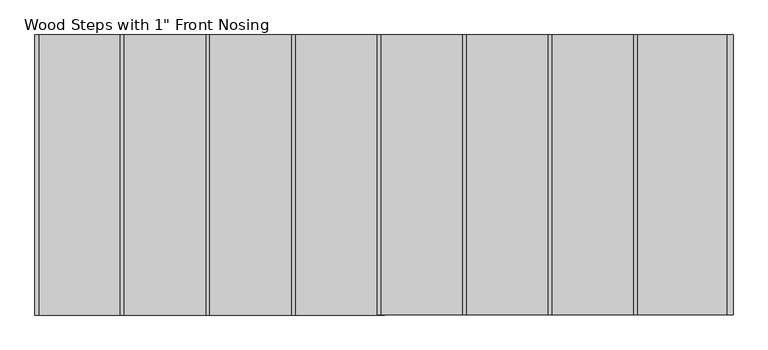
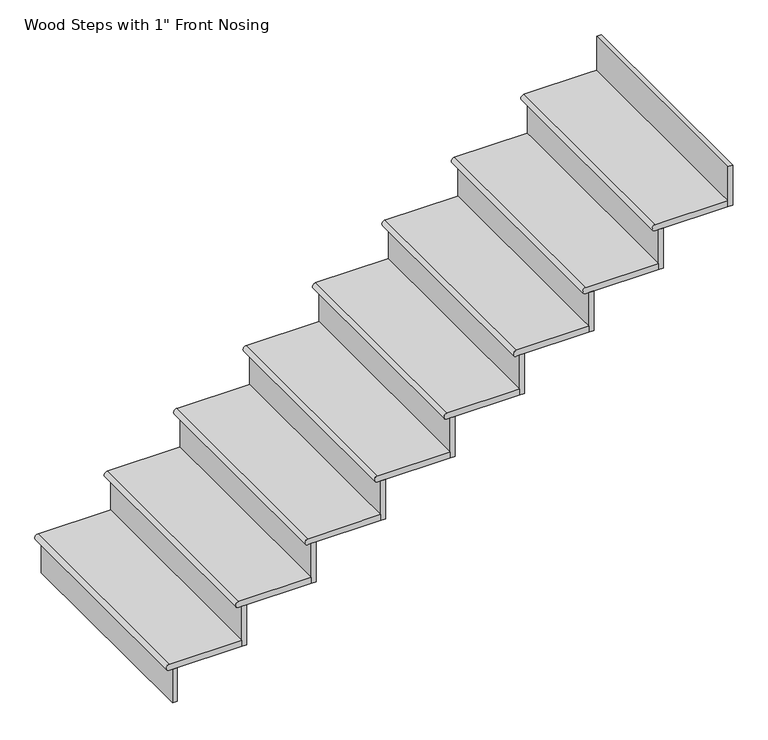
"""IFC4 building model written with IfcOpenShell, lengths in millimetres: stair flight geometry."""

from ifc_helpers import new_model, si_unit, frame, origin, place, context, project, spatial, circle_curve, faceted_brep, source, transform, mapped, element, save
from ifc_brep_helpers import plane_surface, cylinder_surface, advanced_brep


def stair_flight_6cd47184(model_context):
    return source(origin(), model_context, "Body", "SolidModel", [
        advanced_brep(
        [(53728.8203872, 1825.9591714, 143.9333333), (53728.8203872, 1825.9591714, 169.3333333), (53728.8203872, 2740.3591714, 169.3333333), (53728.8203872, 2740.3591714, 143.9333333), (54020.9203872, 2740.3591714, 169.3333333), (54020.9203872, 1825.9591714, 169.3333333), (54020.9203872, 2740.3591714, 143.9333333), (54020.9203872, 1825.9591714, 143.9333333)],
        [
            (0, 1, circle_curve(frame((53728.8203872, 1825.9591714, 156.6333333), z_axis=(0.0, 1.0, 0.0), x_axis=(1.0, 0.0, 0.0)), 12.7)),
            (1, 2),
            (2, 3, circle_curve(frame((53728.8203872, 2740.3591714, 156.6333333), z_axis=(0.0, -1.0, 0.0), x_axis=(1.0, 0.0, 0.0)), 12.7)),
            (3, 0),
            (4, 2),
            (1, 5),
            (5, 4),
            (3, 6),
            (6, 7),
            (7, 0),
            (4, 6),
            (7, 5),
        ],
        [
            cylinder_surface(frame((53728.8203872, 1825.9591714, 156.6333333), z_axis=(0.0, -1.0, 0.0), x_axis=(1.0, 0.0, 0.0)), 12.7),
            plane_surface(frame((53716.1203872, 2740.3591714, 169.3333333), z_axis=(0.0, 0.0, 1.0), x_axis=(-1.0, 0.0, 0.0))),
            plane_surface(frame((53716.1203872, 2740.3591714, 143.9333333), z_axis=(0.0, 0.0, -1.0), x_axis=(1.0, 0.0, 0.0))),
            plane_surface(frame((54020.9203872, 2740.3591714, 169.3333333), z_axis=(0.0, 1.0, 0.0), x_axis=(0.0, 0.0, -1.0))),
            plane_surface(frame((53728.8203872, 1825.9591714, 169.3333333), z_axis=(0.0, -1.0, 0.0), x_axis=(0.0, 0.0, -1.0))),
            plane_surface(frame((54020.9203872, 1825.9591714, 169.3333333), z_axis=(1.0, 0.0, 0.0), x_axis=(0.0, 0.0, -1.0))),
        ],
        [
            (0, [[1, 2, 3, 4]]),
            (1, [[5, -2, 6, 7]]),
            (2, [[8, 9, 10, -4]]),
            (3, [[-5, 11, -8, -3]]),
            (4, [[-6, -1, -10, 12]]),
            (5, [[-7, -12, -9, -11]]),
        ],
    ),
        faceted_brep([(53741.5203872, 1825.9591714, 143.9333333), (53741.5203872, 1825.9591714, 0.0), (53760.5703872, 1825.9591714, 0.0), (53760.5703872, 1825.9591714, 143.9333333), (53741.5203872, 2740.3591714, 143.9333333), (53760.5703872, 2740.3591714, 143.9333333), (53760.5703872, 2740.3591714, 0.0), (53741.5203872, 2740.3591714, 0.0)], [[[0, 1, 2, 3]], [[4, 5, 6, 7]], [[1, 0, 4, 7]], [[2, 1, 7, 6]], [[3, 2, 6, 5]], [[0, 3, 5, 4]]]),
        faceted_brep([(54020.9203872, 1825.9591714, 313.2666667), (54020.9203872, 1825.9591714, 143.9333333), (54039.9703872, 1825.9591714, 143.9333333), (54039.9703872, 1825.9591714, 313.2666667), (54020.9203872, 2740.3591714, 313.2666667), (54039.9703872, 2740.3591714, 313.2666667), (54039.9703872, 2740.3591714, 143.9333333), (54020.9203872, 2740.3591714, 143.9333333)], [[[0, 1, 2, 3]], [[4, 5, 6, 7]], [[1, 0, 4, 7]], [[2, 1, 7, 6]], [[3, 2, 6, 5]], [[0, 3, 5, 4]]]),
        advanced_brep(
        [(54300.3203872, 2740.3591714, 338.6666667), (54008.2203872, 2740.3591714, 338.6666667), (54008.2203872, 1825.9591714, 338.6666667), (54300.3203872, 1825.9591714, 338.6666667), (54008.2203872, 2740.3591714, 313.2666667), (54300.3203872, 2740.3591714, 313.2666667), (54300.3203872, 1825.9591714, 313.2666667), (54008.2203872, 1825.9591714, 313.2666667)],
        [
            (0, 1),
            (1, 2),
            (2, 3),
            (3, 0),
            (4, 5),
            (5, 6),
            (6, 7),
            (7, 4),
            (0, 5),
            (4, 1, circle_curve(frame((54008.2203872, 2740.3591714, 325.9666667), z_axis=(0.0, 1.0, 0.0), x_axis=(1.0, 0.0, 0.0)), 12.7)),
            (2, 7, circle_curve(frame((54008.2203872, 1825.9591714, 325.9666667), z_axis=(0.0, -1.0, 0.0), x_axis=(1.0, 0.0, 0.0)), 12.7)),
            (6, 3),
        ],
        [
            plane_surface(frame((53716.1203872, 2740.3591714, 338.6666667), z_axis=(0.0, 0.0, 1.0), x_axis=(-1.0, 0.0, 0.0))),
            plane_surface(frame((53716.1203872, 2740.3591714, 313.2666667), z_axis=(0.0, 0.0, -1.0), x_axis=(1.0, 0.0, 0.0))),
            plane_surface(frame((54300.3203872, 2740.3591714, 338.6666667), z_axis=(0.0, 1.0, 0.0), x_axis=(0.0, 0.0, -1.0))),
            plane_surface(frame((54008.2203872, 1825.9591714, 338.6666667), z_axis=(0.0, -1.0, 0.0), x_axis=(0.0, 0.0, -1.0))),
            plane_surface(frame((54300.3203872, 1825.9591714, 338.6666667), z_axis=(1.0, 0.0, 0.0), x_axis=(0.0, 0.0, -1.0))),
            cylinder_surface(frame((54008.2203872, 1825.9591714, 325.9666667), z_axis=(0.0, -1.0, 0.0), x_axis=(1.0, 0.0, 0.0)), 12.7),
        ],
        [
            (0, [[1, 2, 3, 4]]),
            (1, [[5, 6, 7, 8]]),
            (2, [[-1, 9, -5, 10]]),
            (3, [[-3, 11, -7, 12]]),
            (4, [[-4, -12, -6, -9]]),
            (5, [[-11, -2, -10, -8]]),
        ],
    ),
        faceted_brep([(54300.3203872, 1825.9591714, 482.6), (54300.3203872, 1825.9591714, 313.2666667), (54319.3703872, 1825.9591714, 313.2666667), (54319.3703872, 1825.9591714, 482.6), (54300.3203872, 2740.3591714, 482.6), (54319.3703872, 2740.3591714, 482.6), (54319.3703872, 2740.3591714, 313.2666667), (54300.3203872, 2740.3591714, 313.2666667)], [[[0, 1, 2, 3]], [[4, 5, 6, 7]], [[1, 0, 4, 7]], [[2, 1, 7, 6]], [[3, 2, 6, 5]], [[0, 3, 5, 4]]]),
        advanced_brep(
        [(54579.7203872, 2740.3591714, 508.0), (54287.6203872, 2740.3591714, 508.0), (54287.6203872, 1825.9591714, 508.0), (54579.7203872, 1825.9591714, 508.0), (54287.6203872, 2740.3591714, 482.6), (54579.7203872, 2740.3591714, 482.6), (54579.7203872, 1825.9591714, 482.6), (54287.6203872, 1825.9591714, 482.6)],
        [
            (0, 1),
            (1, 2),
            (2, 3),
            (3, 0),
            (4, 5),
            (5, 6),
            (6, 7),
            (7, 4),
            (0, 5),
            (4, 1, circle_curve(frame((54287.6203872, 2740.3591714, 495.3), z_axis=(0.0, 1.0, 0.0), x_axis=(1.0, 0.0, 0.0)), 12.7)),
            (2, 7, circle_curve(frame((54287.6203872, 1825.9591714, 495.3), z_axis=(0.0, -1.0, 0.0), x_axis=(1.0, 0.0, 0.0)), 12.7)),
            (6, 3),
        ],
        [
            plane_surface(frame((53995.5203872, 2740.3591714, 508.0), z_axis=(0.0, 0.0, 1.0), x_axis=(-1.0, 0.0, 0.0))),
            plane_surface(frame((53995.5203872, 2740.3591714, 482.6), z_axis=(0.0, 0.0, -1.0), x_axis=(1.0, 0.0, 0.0))),
            plane_surface(frame((54579.7203872, 2740.3591714, 508.0), z_axis=(0.0, 1.0, 0.0), x_axis=(0.0, 0.0, -1.0))),
            plane_surface(frame((54287.6203872, 1825.9591714, 508.0), z_axis=(0.0, -1.0, 0.0), x_axis=(0.0, 0.0, -1.0))),
            plane_surface(frame((54579.7203872, 1825.9591714, 508.0), z_axis=(1.0, 0.0, 0.0), x_axis=(0.0, 0.0, -1.0))),
            cylinder_surface(frame((54287.6203872, 1825.9591714, 495.3), z_axis=(0.0, -1.0, 0.0), x_axis=(1.0, 0.0, 0.0)), 12.7),
        ],
        [
            (0, [[1, 2, 3, 4]]),
            (1, [[5, 6, 7, 8]]),
            (2, [[-1, 9, -5, 10]]),
            (3, [[-3, 11, -7, 12]]),
            (4, [[-4, -12, -6, -9]]),
            (5, [[-11, -2, -10, -8]]),
        ],
    ),
        faceted_brep([(54579.7203872, 1825.9591714, 651.9333333), (54579.7203872, 1825.9591714, 482.6), (54598.7703872, 1825.9591714, 482.6), (54598.7703872, 1825.9591714, 651.9333333), (54579.7203872, 2740.3591714, 651.9333333), (54598.7703872, 2740.3591714, 651.9333333), (54598.7703872, 2740.3591714, 482.6), (54579.7203872, 2740.3591714, 482.6)], [[[0, 1, 2, 3]], [[4, 5, 6, 7]], [[1, 0, 4, 7]], [[2, 1, 7, 6]], [[3, 2, 6, 5]], [[0, 3, 5, 4]]]),
        advanced_brep(
        [(54859.1203872, 2740.3591714, 677.3333333), (54567.0203872, 2740.3591714, 677.3333333), (54567.0203872, 1825.9591714, 677.3333333), (54859.1203872, 1825.9591714, 677.3333333), (54567.0203872, 2740.3591714, 651.9333333), (54859.1203872, 2740.3591714, 651.9333333), (54859.1203872, 1825.9591714, 651.9333333), (54567.0203872, 1825.9591714, 651.9333333)],
        [
            (0, 1),
            (1, 2),
            (2, 3),
            (3, 0),
            (4, 5),
            (5, 6),
            (6, 7),
            (7, 4),
            (0, 5),
            (4, 1, circle_curve(frame((54567.0203872, 2740.3591714, 664.6333333), z_axis=(0.0, 1.0, 0.0), x_axis=(1.0, 0.0, 0.0)), 12.7)),
            (2, 7, circle_curve(frame((54567.0203872, 1825.9591714, 664.6333333), z_axis=(0.0, -1.0, 0.0), x_axis=(1.0, 0.0, 0.0)), 12.7)),
            (6, 3),
        ],
        [
            plane_surface(frame((54274.9203872, 2740.3591714, 677.3333333), z_axis=(0.0, 0.0, 1.0), x_axis=(-1.0, 0.0, 0.0))),
            plane_surface(frame((54274.9203872, 2740.3591714, 651.9333333), z_axis=(0.0, 0.0, -1.0), x_axis=(1.0, 0.0, 0.0))),
            plane_surface(frame((54859.1203872, 2740.3591714, 677.3333333), z_axis=(0.0, 1.0, 0.0), x_axis=(0.0, 0.0, -1.0))),
            plane_surface(frame((54567.0203872, 1825.9591714, 677.3333333), z_axis=(0.0, -1.0, 0.0), x_axis=(0.0, 0.0, -1.0))),
            plane_surface(frame((54859.1203872, 1825.9591714, 677.3333333), z_axis=(1.0, 0.0, 0.0), x_axis=(0.0, 0.0, -1.0))),
            cylinder_surface(frame((54567.0203872, 1825.9591714, 664.6333333), z_axis=(0.0, -1.0, 0.0), x_axis=(1.0, 0.0, 0.0)), 12.7),
        ],
        [
            (0, [[1, 2, 3, 4]]),
            (1, [[5, 6, 7, 8]]),
            (2, [[-1, 9, -5, 10]]),
            (3, [[-3, 11, -7, 12]]),
            (4, [[-4, -12, -6, -9]]),
            (5, [[-11, -2, -10, -8]]),
        ],
    ),
        faceted_brep([(54859.1203872, 1825.9591714, 821.2666667), (54859.1203872, 1825.9591714, 651.9333333), (54878.1703872, 1825.9591714, 651.9333333), (54878.1703872, 1825.9591714, 821.2666667), (54859.1203872, 2740.3591714, 821.2666667), (54878.1703872, 2740.3591714, 821.2666667), (54878.1703872, 2740.3591714, 651.9333333), (54859.1203872, 2740.3591714, 651.9333333)], [[[0, 1, 2, 3]], [[4, 5, 6, 7]], [[1, 0, 4, 7]], [[2, 1, 7, 6]], [[3, 2, 6, 5]], [[0, 3, 5, 4]]]),
        advanced_brep(
        [(55138.5203872, 2740.3591714, 846.6666667), (54846.4203872, 2740.3591714, 846.6666667), (54846.4203872, 1825.9591714, 846.6666667), (55138.5203872, 1825.9591714, 846.6666667), (54846.4203872, 2740.3591714, 821.2666667), (55138.5203872, 2740.3591714, 821.2666667), (55138.5203872, 1825.9591714, 821.2666667), (54846.4203872, 1825.9591714, 821.2666667)],
        [
            (0, 1),
            (1, 2),
            (2, 3),
            (3, 0),
            (4, 5),
            (5, 6),
            (6, 7),
            (7, 4),
            (0, 5),
            (4, 1, circle_curve(frame((54846.4203872, 2740.3591714, 833.9666667), z_axis=(0.0, 1.0, 0.0), x_axis=(1.0, 0.0, 0.0)), 12.7)),
            (2, 7, circle_curve(frame((54846.4203872, 1825.9591714, 833.9666667), z_axis=(0.0, -1.0, 0.0), x_axis=(1.0, 0.0, 0.0)), 12.7)),
            (6, 3),
        ],
        [
            plane_surface(frame((54554.3203872, 2740.3591714, 846.6666667), z_axis=(0.0, 0.0, 1.0), x_axis=(-1.0, 0.0, 0.0))),
            plane_surface(frame((54554.3203872, 2740.3591714, 821.2666667), z_axis=(0.0, 0.0, -1.0), x_axis=(1.0, 0.0, 0.0))),
            plane_surface(frame((55138.5203872, 2740.3591714, 846.6666667), z_axis=(0.0, 1.0, 0.0), x_axis=(0.0, 0.0, -1.0))),
            plane_surface(frame((54846.4203872, 1825.9591714, 846.6666667), z_axis=(0.0, -1.0, 0.0), x_axis=(0.0, 0.0, -1.0))),
            plane_surface(frame((55138.5203872, 1825.9591714, 846.6666667), z_axis=(1.0, 0.0, 0.0), x_axis=(0.0, 0.0, -1.0))),
            cylinder_surface(frame((54846.4203872, 1825.9591714, 833.9666667), z_axis=(0.0, -1.0, 0.0), x_axis=(1.0, 0.0, 0.0)), 12.7),
        ],
        [
            (0, [[1, 2, 3, 4]]),
            (1, [[5, 6, 7, 8]]),
            (2, [[-1, 9, -5, 10]]),
            (3, [[-3, 11, -7, 12]]),
            (4, [[-4, -12, -6, -9]]),
            (5, [[-11, -2, -10, -8]]),
        ],
    ),
        faceted_brep([(55138.5203872, 1825.9591714, 990.6), (55138.5203872, 1825.9591714, 821.2666667), (55157.5703872, 1825.9591714, 821.2666667), (55157.5703872, 1825.9591714, 990.6), (55138.5203872, 2740.3591714, 990.6), (55157.5703872, 2740.3591714, 990.6), (55157.5703872, 2740.3591714, 821.2666667), (55138.5203872, 2740.3591714, 821.2666667)], [[[0, 1, 2, 3]], [[4, 5, 6, 7]], [[1, 0, 4, 7]], [[2, 1, 7, 6]], [[3, 2, 6, 5]], [[0, 3, 5, 4]]]),
        advanced_brep(
        [(55417.9203872, 2740.3591714, 1016.0), (55125.8203872, 2740.3591714, 1016.0), (55125.8203872, 1825.9591714, 1016.0), (55417.9203872, 1825.9591714, 1016.0), (55125.8203872, 2740.3591714, 990.6), (55417.9203872, 2740.3591714, 990.6), (55417.9203872, 1825.9591714, 990.6), (55125.8203872, 1825.9591714, 990.6)],
        [
            (0, 1),
            (1, 2),
            (2, 3),
            (3, 0),
            (4, 5),
            (5, 6),
            (6, 7),
            (7, 4),
            (0, 5),
            (4, 1, circle_curve(frame((55125.8203872, 2740.3591714, 1003.3), z_axis=(0.0, 1.0, 0.0), x_axis=(1.0, 0.0, 0.0)), 12.7)),
            (2, 7, circle_curve(frame((55125.8203872, 1825.9591714, 1003.3), z_axis=(0.0, -1.0, 0.0), x_axis=(1.0, 0.0, 0.0)), 12.7)),
            (6, 3),
        ],
        [
            plane_surface(frame((54833.7203872, 2740.3591714, 1016.0), z_axis=(0.0, 0.0, 1.0), x_axis=(-1.0, 0.0, 0.0))),
            plane_surface(frame((54833.7203872, 2740.3591714, 990.6), z_axis=(0.0, 0.0, -1.0), x_axis=(1.0, 0.0, 0.0))),
            plane_surface(frame((55417.9203872, 2740.3591714, 1016.0), z_axis=(0.0, 1.0, 0.0), x_axis=(0.0, 0.0, -1.0))),
            plane_surface(frame((55125.8203872, 1825.9591714, 1016.0), z_axis=(0.0, -1.0, 0.0), x_axis=(0.0, 0.0, -1.0))),
            plane_surface(frame((55417.9203872, 1825.9591714, 1016.0), z_axis=(1.0, 0.0, 0.0), x_axis=(0.0, 0.0, -1.0))),
            cylinder_surface(frame((55125.8203872, 1825.9591714, 1003.3), z_axis=(0.0, -1.0, 0.0), x_axis=(1.0, 0.0, 0.0)), 12.7),
        ],
        [
            (0, [[1, 2, 3, 4]]),
            (1, [[5, 6, 7, 8]]),
            (2, [[-1, 9, -5, 10]]),
            (3, [[-3, 11, -7, 12]]),
            (4, [[-4, -12, -6, -9]]),
            (5, [[-11, -2, -10, -8]]),
        ],
    ),
        faceted_brep([(55417.9203872, 1825.9591714, 1159.9333333), (55417.9203872, 1825.9591714, 990.6), (55436.9703872, 1825.9591714, 990.6), (55436.9703872, 1825.9591714, 1159.9333333), (55417.9203872, 2740.3591714, 1159.9333333), (55436.9703872, 2740.3591714, 1159.9333333), (55436.9703872, 2740.3591714, 990.6), (55417.9203872, 2740.3591714, 990.6)], [[[0, 1, 2, 3]], [[4, 5, 6, 7]], [[1, 0, 4, 7]], [[2, 1, 7, 6]], [[3, 2, 6, 5]], [[0, 3, 5, 4]]]),
        advanced_brep(
        [(55697.3203872, 2740.3591714, 1185.3333333), (55405.2203872, 2740.3591714, 1185.3333333), (55405.2203872, 1825.9591714, 1185.3333333), (55697.3203872, 1825.9591714, 1185.3333333), (55405.2203872, 2740.3591714, 1159.9333333), (55697.3203872, 2740.3591714, 1159.9333333), (55697.3203872, 1825.9591714, 1159.9333333), (55405.2203872, 1825.9591714, 1159.9333333)],
        [
            (0, 1),
            (1, 2),
            (2, 3),
            (3, 0),
            (4, 5),
            (5, 6),
            (6, 7),
            (7, 4),
            (0, 5),
            (4, 1, circle_curve(frame((55405.2203872, 2740.3591714, 1172.6333333), z_axis=(0.0, 1.0, 0.0), x_axis=(1.0, 0.0, 0.0)), 12.7)),
            (2, 7, circle_curve(frame((55405.2203872, 1825.9591714, 1172.6333333), z_axis=(0.0, -1.0, 0.0), x_axis=(1.0, 0.0, 0.0)), 12.7)),
            (6, 3),
        ],
        [
            plane_surface(frame((55113.1203872, 2740.3591714, 1185.3333333), z_axis=(0.0, 0.0, 1.0), x_axis=(-1.0, 0.0, 0.0))),
            plane_surface(frame((55113.1203872, 2740.3591714, 1159.9333333), z_axis=(0.0, 0.0, -1.0), x_axis=(1.0, 0.0, 0.0))),
            plane_surface(frame((55697.3203872, 2740.3591714, 1185.3333333), z_axis=(0.0, 1.0, 0.0), x_axis=(0.0, 0.0, -1.0))),
            plane_surface(frame((55405.2203872, 1825.9591714, 1185.3333333), z_axis=(0.0, -1.0, 0.0), x_axis=(0.0, 0.0, -1.0))),
            plane_surface(frame((55697.3203872, 1825.9591714, 1185.3333333), z_axis=(1.0, 0.0, 0.0), x_axis=(0.0, 0.0, -1.0))),
            cylinder_surface(frame((55405.2203872, 1825.9591714, 1172.6333333), z_axis=(0.0, -1.0, 0.0), x_axis=(1.0, 0.0, 0.0)), 12.7),
        ],
        [
            (0, [[1, 2, 3, 4]]),
            (1, [[5, 6, 7, 8]]),
            (2, [[-1, 9, -5, 10]]),
            (3, [[-3, 11, -7, 12]]),
            (4, [[-4, -12, -6, -9]]),
            (5, [[-11, -2, -10, -8]]),
        ],
    ),
        faceted_brep([(55976.7203872, 1825.9591714, 1498.6), (55976.7203872, 1825.9591714, 1329.2666667), (55995.7703872, 1825.9591714, 1329.2666667), (55995.7703872, 1825.9591714, 1498.6), (55976.7203872, 2740.3591714, 1498.6), (55995.7703872, 2740.3591714, 1498.6), (55995.7703872, 2740.3591714, 1329.2666667), (55976.7203872, 2740.3591714, 1329.2666667)], [[[0, 1, 2, 3]], [[4, 5, 6, 7]], [[1, 0, 4, 7]], [[2, 1, 7, 6]], [[3, 2, 6, 5]], [[0, 3, 5, 4]]]),
        faceted_brep([(55697.3203872, 1825.9591714, 1329.2666667), (55697.3203872, 1825.9591714, 1159.9333333), (55716.3703872, 1825.9591714, 1159.9333333), (55716.3703872, 1825.9591714, 1329.2666667), (55697.3203872, 2740.3591714, 1329.2666667), (55716.3703872, 2740.3591714, 1329.2666667), (55716.3703872, 2740.3591714, 1159.9333333), (55697.3203872, 2740.3591714, 1159.9333333)], [[[0, 1, 2, 3]], [[4, 5, 6, 7]], [[1, 0, 4, 7]], [[2, 1, 7, 6]], [[3, 2, 6, 5]], [[0, 3, 5, 4]]]),
        advanced_brep(
        [(55976.7203872, 2740.3591714, 1354.6666667), (55951.3203872, 2740.3591714, 1354.6666667), (55684.6203872, 2740.3591714, 1354.6666667), (55684.6203872, 1825.9591714, 1354.6666667), (55976.7203872, 1825.9591714, 1354.6666667), (55951.3203872, 2740.3591714, 1329.2666667), (55976.7203872, 2740.3591714, 1329.2666667), (55976.7203872, 1825.9591714, 1329.2666667), (55684.6203872, 1825.9591714, 1329.2666667), (55684.6203872, 2740.3591714, 1329.2666667)],
        [
            (0, 1),
            (1, 2),
            (2, 3),
            (3, 4),
            (4, 0),
            (5, 6),
            (6, 7),
            (7, 8),
            (8, 9),
            (9, 5),
            (0, 6),
            (5, 1),
            (9, 2, circle_curve(frame((55684.6203872, 2740.3591714, 1341.9666667), z_axis=(0.0, 1.0, 0.0), x_axis=(1.0, 0.0, 0.0)), 12.7)),
            (3, 8, circle_curve(frame((55684.6203872, 1825.9591714, 1341.9666667), z_axis=(0.0, -1.0, 0.0), x_axis=(1.0, 0.0, 0.0)), 12.7)),
            (7, 4),
        ],
        [
            plane_surface(frame((55951.3203872, 2740.3591714, 1354.6666667), z_axis=(0.0, 0.0, 1.0), x_axis=(-1.0, 0.0, 0.0))),
            plane_surface(frame((55951.3203872, 2740.3591714, 1329.2666667), z_axis=(0.0, 0.0, -1.0), x_axis=(1.0, 0.0, 0.0))),
            plane_surface(frame((55976.7203872, 2740.3591714, 1354.6666667), z_axis=(0.0, 1.0, 0.0), x_axis=(0.0, 0.0, -1.0))),
            plane_surface(frame((55951.3203872, 2740.3591714, 1354.6666667), z_axis=(0.0, 1.0, 0.0), x_axis=(0.0, 0.0, -1.0))),
            plane_surface(frame((55684.6203872, 1825.9591714, 1354.6666667), z_axis=(0.0, -1.0, 0.0), x_axis=(0.0, 0.0, -1.0))),
            plane_surface(frame((55976.7203872, 1825.9591714, 1354.6666667), z_axis=(1.0, 0.0, 0.0), x_axis=(0.0, 0.0, -1.0))),
            cylinder_surface(frame((55684.6203872, 1825.9591714, 1341.9666667), z_axis=(0.0, -1.0, 0.0), x_axis=(1.0, 0.0, 0.0)), 12.7),
        ],
        [
            (0, [[1, 2, 3, 4, 5]]),
            (1, [[6, 7, 8, 9, 10]]),
            (2, [[-1, 11, -6, 12]]),
            (3, [[-2, -12, -10, 13]]),
            (4, [[-4, 14, -8, 15]]),
            (5, [[-5, -15, -7, -11]]),
            (6, [[-14, -3, -13, -9]]),
        ],
    ),
    ])


if __name__ == "__main__":
    model = new_model("IFC4")
    model_context = context("Model", 3, world=origin())
    ifc_project = project(units=[si_unit("LENGTHUNIT", "METRE", prefix="MILLI")], contexts=[model_context])
    site = spatial("IfcSite", under=ifc_project)
    building = spatial("IfcBuilding", under=site)
    placement = place(None, origin())
    stair_flight_shape = stair_flight_6cd47184(model_context)
    element("IfcStairFlight", 1, ObjectType="Wood Steps with 1\" Front Nosing", at=placement, inside=building, context=model_context, shape_type="MappedRepresentation", body=[
        mapped(stair_flight_shape, transform((0.0, 0.0, 0.0), x_axis=(1.0, 0.0, 0.0), y_axis=(0.0, 1.0, 0.0), z_axis=(0.0, 0.0, 1.0))),
    ])
    save(model, "model.ifc")
